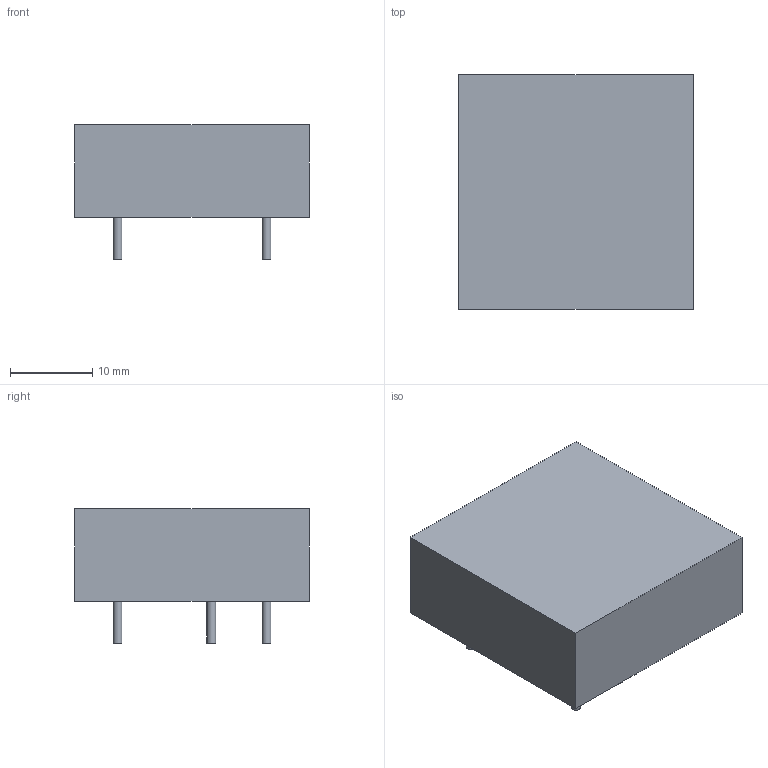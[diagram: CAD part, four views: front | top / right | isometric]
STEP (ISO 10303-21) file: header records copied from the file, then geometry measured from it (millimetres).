
FILE_DESCRIPTION(('FreeCAD Model'),'2;1');
FILE_NAME('/var/www/3D/0T/539271.1.4.stp','2020-04-08T23:32:07',( 'Author'),(''),'Open CASCADE STEP processor 6.9','FreeCAD','Unknown' );
FILE_SCHEMA(('AUTOMOTIVE_DESIGN { 1 0 10303 214 1 1 1 1 }'));
Length unit declared in the file: millimetre
Products named in the file (3): ASSEMBLY; Body; Leads
Assembly tree (5 placements, depth 2):
  ASSEMBLY
    Body
    Leads  x4
Bounding box: 28.55 x 28.55 x 16.33 mm (x, y, z)
Volume: 9227 mm3; surface area: 3215.7 mm2
Topology: 17 solids, 17 shells, 54 faces, 60 edges, 40 vertices
Faces by surface type: plane 38, cylinder 16
Full cylindrical faces by diameter (mm): 1.07 x16
Entity records: 799 total; most frequent: DIRECTION 128, CARTESIAN_POINT 112, LINE 56, VECTOR 56, ORIENTED_EDGE 48, PCURVE 48, DEFINITIONAL_REPRESENTATION 48, AXIS2_PLACEMENT_3D 32
